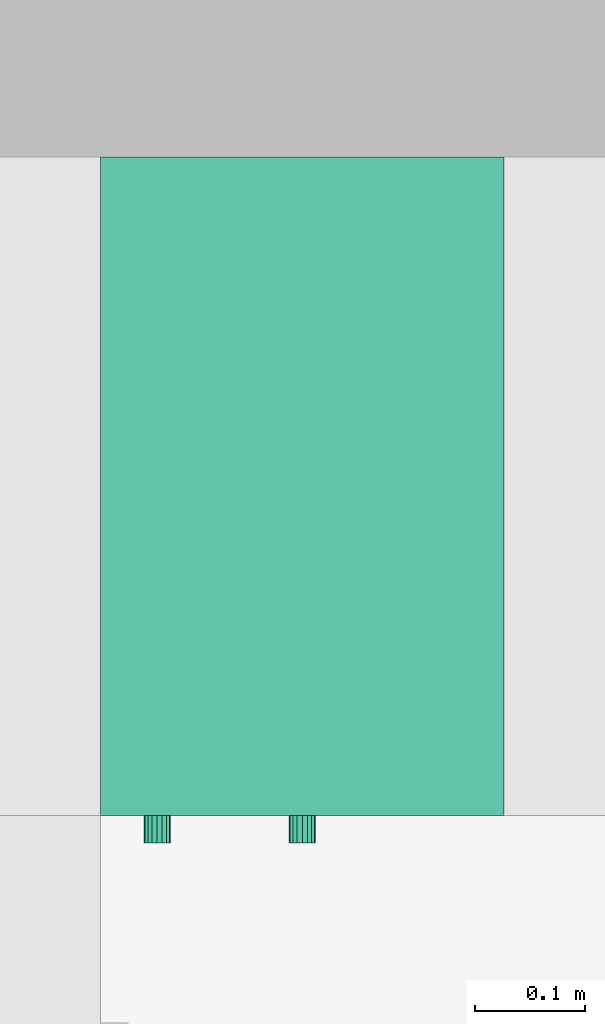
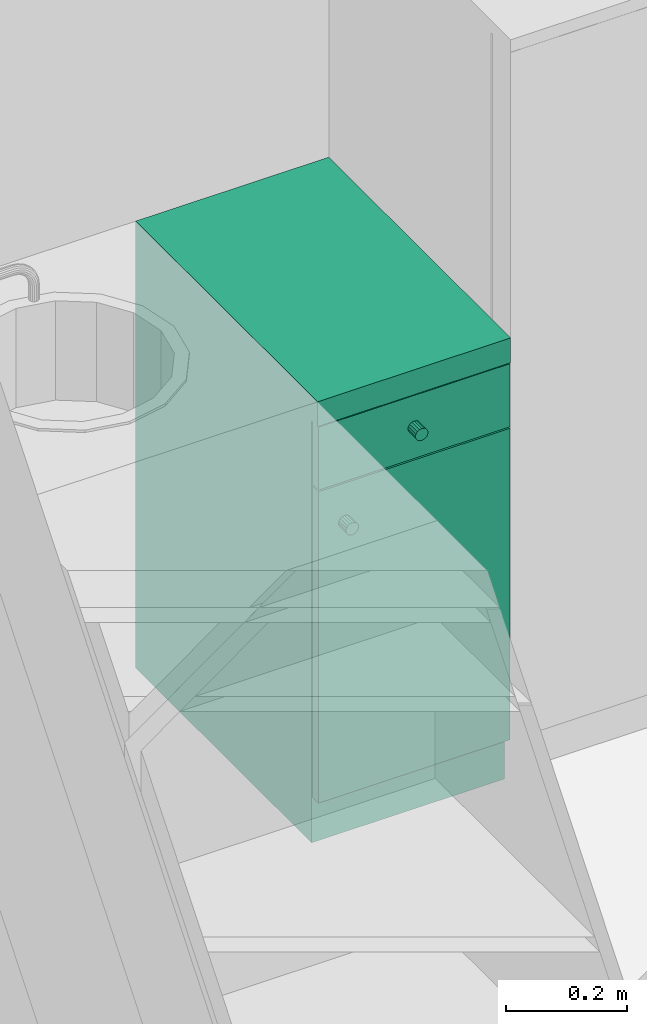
# One storey, part 57 of 172: 1 flow terminal.
"""IFC2X3 building model written with IfcOpenShell, lengths in millimetres."""

from ifc_helpers import new_model, entity, si_unit, converted_unit, money_unit, direction, frame, origin_with_axes, place, context, subcontext, project, spatial, faceted_brep, source, transform, mapped, material, material_list, type_object, element, save


model = new_model("IFC2X3")

# Units and contexts
model_context = context("Model", 3, precision=1e-05, world=origin_with_axes(), true_north=direction((0.0, 1.0)))
body_context = subcontext(model_context, "Body", "Model", "MODEL_VIEW")
ifc_project = project(units=[si_unit("LENGTHUNIT", "METRE", prefix="MILLI"), si_unit("AREAUNIT", "SQUARE_METRE"), si_unit("VOLUMEUNIT", "CUBIC_METRE"), converted_unit("PLANEANGLEUNIT", "DEGREE", entity("IfcPlaneAngleMeasure", 0.0174532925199), si_unit("PLANEANGLEUNIT", "RADIAN"), dimensions=[0, 0, 0, 0, 0, 0, 0]), si_unit("SOLIDANGLEUNIT", "STERADIAN"), money_unit("USD"), converted_unit("TIMEUNIT", "Year", entity("IfcTimeMeasure", 31556926.0), si_unit("TIMEUNIT", "SECOND"), dimensions=[0, 0, 0, 0, 0, 0, 0]), si_unit("MASSUNIT", "GRAM"), si_unit("THERMODYNAMICTEMPERATUREUNIT", "DEGREE_CELSIUS"), si_unit("LUMINOUSINTENSITYUNIT", "LUMEN")], contexts=[model_context])

# Site, building, storey
site_placement = place(None, origin_with_axes())
site = spatial("IfcSite", under=ifc_project, at=site_placement, Name="Site", CompositionType="ELEMENT")
building_placement = place(site_placement, origin_with_axes())
building = spatial("IfcBuilding", under=site, at=building_placement, Name="Building", CompositionType="ELEMENT")
storey_placement = place(building_placement, frame((0.0, 0.0, 3200.0), z_axis=(0.0, 0.0, 1.0), x_axis=(1.0, 0.0, 0.0)))
storey = spatial("IfcBuildingStorey", under=building, at=storey_placement, Name="3KORRUS", CompositionType="ELEMENT", Elevation=3200.0)

# Flow terminal
ifc_material = material(Name="Background")
ifc_material_list = material_list([ifc_material])
sanitary_terminal_type = type_object("IfcSanitaryTerminalType", Name="Cabinet Base Single Door 19", PredefinedType="SINK")
shared_shape = source(origin_with_axes(), body_context, "Body", "Brep", [
    faceted_brep([(-20.0, 20.0, 710.0), (-20.0, 20.0, 730.0), (-347.559, 20.0, 730.0), (-347.559, 20.0, 710.0), (-20.0, 580.0, 710.0), (-20.0, 580.0, 730.0), (-347.559, 580.0, 730.0), (-347.559, 580.0, 710.0)], [[[0, 1, 2, 3]], [[4, 5, 1, 0]], [[1, 5, 6, 2]], [[3, 2, 6, 7]], [[0, 3, 7, 4]], [[7, 6, 5, 4]]]),
    faceted_brep([(0.0, 20.0, 0.0), (0.0, 20.0, 90.0), (-367.559, 20.0, 90.0), (-367.559, 20.0, 0.0), (0.0, 600.0, 0.0), (0.0, 600.0, 90.0), (-367.559, 600.0, 90.0), (-367.559, 600.0, 0.0)], [[[0, 1, 2, 3]], [[4, 5, 1, 0]], [[1, 5, 6, 2]], [[3, 2, 6, 7]], [[0, 3, 7, 4]], [[7, 6, 5, 4]]]),
    faceted_brep([(0.0, 20.0, 830.0), (0.0, 20.0, 850.0), (-20.0, 20.0, 850.0), (-20.0, 20.0, 830.0), (0.0, 600.0, 830.0), (0.0, 600.0, 850.0), (-20.0, 600.0, 850.0), (-347.559, 600.0, 850.0), (-367.559, 600.0, 850.0), (-367.559, 20.0, 850.0), (-347.559, 20.0, 850.0), (-347.559, 20.0, 830.0), (-367.559, 20.0, 830.0), (-367.559, 600.0, 830.0), (-347.559, 600.0, 830.0), (-20.0, 600.0, 830.0)], [[[0, 1, 2, 3]], [[4, 5, 1, 0]], [[1, 5, 6, 7, 8, 9, 10, 2]], [[3, 2, 10, 11]], [[0, 3, 11, 12, 13, 14, 15, 4]], [[15, 6, 5, 4]], [[14, 7, 6, 15]], [[13, 8, 7, 14]], [[12, 9, 8, 13]], [[11, 10, 9, 12]]]),
    faceted_brep([(0.0, 20.0, 90.0), (0.0, 20.0, 110.0), (-20.0, 20.0, 110.0), (-20.0, 20.0, 90.0), (0.0, 600.0, 90.0), (0.0, 600.0, 110.0), (-20.0, 600.0, 110.0), (-347.559, 600.0, 110.0), (-367.559, 600.0, 110.0), (-367.559, 20.0, 110.0), (-347.559, 20.0, 110.0), (-347.559, 20.0, 90.0), (-367.559, 20.0, 90.0), (-367.559, 600.0, 90.0), (-347.559, 600.0, 90.0), (-20.0, 600.0, 90.0)], [[[0, 1, 2, 3]], [[4, 5, 1, 0]], [[1, 5, 6, 7, 8, 9, 10, 2]], [[3, 2, 10, 11]], [[0, 3, 11, 12, 13, 14, 15, 4]], [[15, 6, 5, 4]], [[14, 7, 6, 15]], [[13, 8, 7, 14]], [[12, 9, 8, 13]], [[11, 10, 9, 12]]]),
    faceted_brep([(0.0, 20.0, 110.0), (0.0, 20.0, 830.0), (-20.0, 20.0, 830.0), (-20.0, 20.0, 110.0), (0.0, 600.0, 110.0), (0.0, 600.0, 830.0), (-367.559, 600.0, 830.0), (-367.559, 20.0, 830.0), (-347.559, 20.0, 830.0), (-347.559, 580.0, 830.0), (-20.0, 580.0, 830.0), (-20.0, 580.0, 110.0), (-347.559, 580.0, 110.0), (-347.559, 20.0, 110.0), (-367.559, 20.0, 110.0), (-367.559, 600.0, 110.0)], [[[0, 1, 2, 3]], [[4, 5, 1, 0]], [[1, 5, 6, 7, 8, 9, 10, 2]], [[3, 2, 10, 11]], [[0, 3, 11, 12, 13, 14, 15, 4]], [[15, 6, 5, 4]], [[14, 7, 6, 15]], [[13, 8, 7, 14]], [[12, 9, 8, 13]], [[11, 10, 9, 12]]]),
    faceted_brep([(-347.559, 20.0, 385.0), (-347.559, 20.0, 405.0), (-347.559, 580.0, 405.0), (-347.559, 580.0, 385.0), (-20.0, 20.0, 385.0), (-20.0, 20.0, 405.0), (-20.0, 580.0, 405.0), (-20.0, 580.0, 385.0)], [[[0, 1, 2, 3]], [[4, 5, 1, 0]], [[1, 5, 6, 2]], [[3, 2, 6, 7]], [[0, 3, 7, 4]], [[7, 6, 5, 4]]]),
    faceted_brep([(0.0, 0.0, 850.0), (0.0, 0.0, 900.0), (-367.559, 0.0, 900.0), (-367.559, 0.0, 850.0), (0.0, 600.0, 850.0), (0.0, 600.0, 900.0), (-367.559, 600.0, 900.0), (-367.559, 600.0, 850.0)], [[[0, 1, 2, 3]], [[4, 5, 1, 0]], [[1, 5, 6, 2]], [[3, 2, 6, 7]], [[0, 3, 7, 4]], [[7, 6, 5, 4]]]),
    faceted_brep([(-1.5, 20.0, 721.5), (-1.5, 0.0, 721.5), (-366.059, 0.0, 721.5), (-366.059, 20.0, 721.5), (-1.5, 20.0, 848.5), (-1.5, 0.0, 848.5), (-366.059, 0.0, 848.5), (-366.059, 20.0, 848.5)], [[[0, 1, 2, 3]], [[4, 5, 1, 0]], [[1, 5, 6, 2]], [[3, 2, 6, 7]], [[0, 3, 7, 4]], [[7, 6, 5, 4]]]),
    faceted_brep([(-179.187, 0.0, 773.913), (-183.779, 0.0, 773.0), (-188.372, 0.0, 773.913), (-192.265, 0.0, 776.515), (-194.866, 0.0, 780.408), (-195.779, 0.0, 785.0), (-194.866, 0.0, 789.592), (-192.265, 0.0, 793.485), (-188.372, 0.0, 796.087), (-183.779, 0.0, 797.0), (-179.187, 0.0, 796.087), (-175.294, 0.0, 793.485), (-172.693, 0.0, 789.592), (-171.779, 0.0, 785.0), (-172.693, 0.0, 780.408), (-175.294, 0.0, 776.515), (-179.187, -25.0, 773.913), (-183.779, -25.0, 773.0), (-188.372, -25.0, 773.913), (-192.265, -25.0, 776.515), (-194.866, -25.0, 780.408), (-195.779, -25.0, 785.0), (-194.866, -25.0, 789.592), (-192.265, -25.0, 793.485), (-188.372, -25.0, 796.087), (-183.779, -25.0, 797.0), (-179.187, -25.0, 796.087), (-175.294, -25.0, 793.485), (-172.693, -25.0, 789.592), (-171.779, -25.0, 785.0), (-172.693, -25.0, 780.408), (-175.294, -25.0, 776.515)], [[[0, 1, 2, 3, 4, 5, 6, 7, 8, 9, 10, 11, 12, 13, 14, 15]], [[0, 16, 17, 1]], [[1, 17, 18, 2]], [[2, 18, 19, 3]], [[3, 19, 20, 4]], [[4, 20, 21, 5]], [[5, 21, 22, 6]], [[6, 22, 23, 7]], [[7, 23, 24, 8]], [[8, 24, 25, 9]], [[9, 25, 26, 10]], [[10, 26, 27, 11]], [[11, 27, 28, 12]], [[12, 28, 29, 13]], [[13, 29, 30, 14]], [[14, 30, 31, 15]], [[15, 31, 16, 0]], [[16, 31, 30, 29, 28, 27, 26, 25, 24, 23, 22, 21, 20, 19, 18, 17]]]),
    faceted_brep([(-1.5, 20.0, 91.5), (-1.5, 0.0, 91.5), (-366.059, 0.0, 91.5), (-366.059, 20.0, 91.5), (-1.5, 20.0, 718.5), (-1.5, 0.0, 718.5), (-366.059, 0.0, 718.5), (-366.059, 20.0, 718.5)], [[[0, 1, 2, 3]], [[4, 5, 1, 0]], [[1, 5, 6, 2]], [[3, 2, 6, 7]], [[0, 3, 7, 4]], [[7, 6, 5, 4]]]),
    faceted_brep([(-327.145, 0.0, 636.908), (-328.059, 0.0, 641.5), (-327.145, 0.0, 646.092), (-324.544, 0.0, 649.985), (-320.651, 0.0, 652.587), (-316.059, 0.0, 653.5), (-311.467, 0.0, 652.587), (-307.573, 0.0, 649.985), (-304.972, 0.0, 646.092), (-304.059, 0.0, 641.5), (-304.972, 0.0, 636.908), (-307.573, 0.0, 633.015), (-311.467, 0.0, 630.413), (-316.059, 0.0, 629.5), (-320.651, 0.0, 630.413), (-324.544, 0.0, 633.015), (-327.145, -25.0, 636.908), (-328.059, -25.0, 641.5), (-327.145, -25.0, 646.092), (-324.544, -25.0, 649.985), (-320.651, -25.0, 652.587), (-316.059, -25.0, 653.5), (-311.467, -25.0, 652.587), (-307.573, -25.0, 649.985), (-304.972, -25.0, 646.092), (-304.059, -25.0, 641.5), (-304.972, -25.0, 636.908), (-307.573, -25.0, 633.015), (-311.467, -25.0, 630.413), (-316.059, -25.0, 629.5), (-320.651, -25.0, 630.413), (-324.544, -25.0, 633.015)], [[[0, 1, 2, 3, 4, 5, 6, 7, 8, 9, 10, 11, 12, 13, 14, 15]], [[0, 16, 17, 1]], [[1, 17, 18, 2]], [[2, 18, 19, 3]], [[3, 19, 20, 4]], [[4, 20, 21, 5]], [[5, 21, 22, 6]], [[6, 22, 23, 7]], [[7, 23, 24, 8]], [[8, 24, 25, 9]], [[9, 25, 26, 10]], [[10, 26, 27, 11]], [[11, 27, 28, 12]], [[12, 28, 29, 13]], [[13, 29, 30, 14]], [[14, 30, 31, 15]], [[15, 31, 16, 0]], [[16, 31, 30, 29, 28, 27, 26, 25, 24, 23, 22, 21, 20, 19, 18, 17]]]),
])
flow_terminal_placement = place(storey_placement, frame((1234.2564771, -9966.37850445, 0.0), z_axis=(0.0, 0.0, 1.0), x_axis=(1.0, 0.0, 0.0)))
element("IfcFlowTerminal", 1, at=flow_terminal_placement, inside=storey, type_object=sanitary_terminal_type, material=ifc_material_list, Name="FU - 007", context=body_context, shape_type="MappedRepresentation", body=[
    mapped(shared_shape, transform((0.0, 0.0, 0.0))),
])

save(model, "model.ifc")
